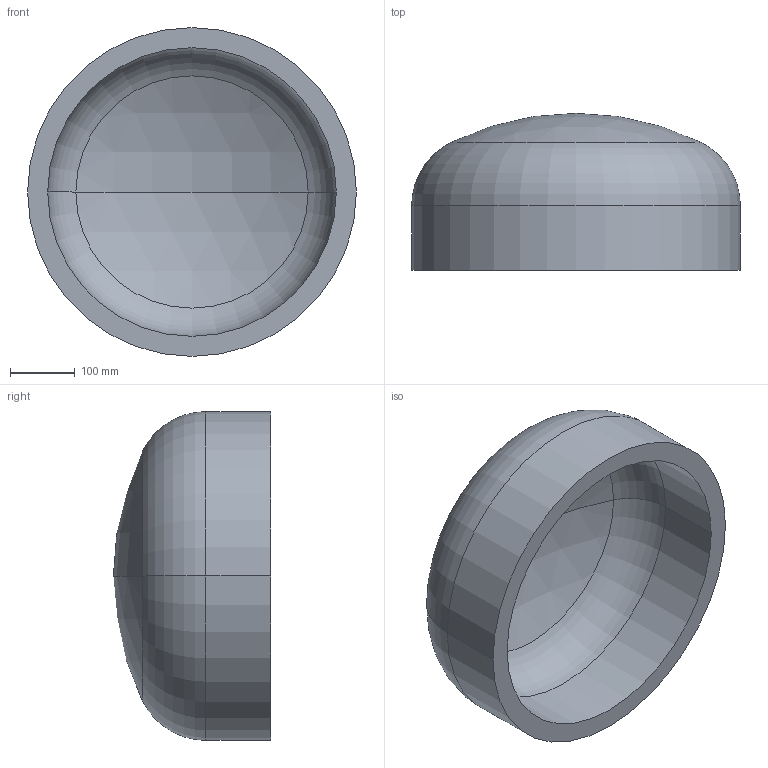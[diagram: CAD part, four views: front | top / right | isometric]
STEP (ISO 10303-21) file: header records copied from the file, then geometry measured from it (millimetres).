
FILE_DESCRIPTION (( 'STEP AP203' ), '1' );
FILE_NAME ('DIN 28013 Korbbogenform_-_Boden DIN 28013 - 508 x 100 - I - s=31.step', '2016-07-01T07:53:56', ( '' ), ( '' ), 'SwSTEP 2.0', 'SolidWorks 2013', '' );
FILE_SCHEMA (( 'CONFIG_CONTROL_DESIGN' ));
Length unit declared in the file: millimetre
Products named in the file (1): DIN 28013 Korbbogenform_-_Boden DIN 28013 - 508 x 100 - I - s=31
Bounding box: 508 x 242.79 x 508 mm (x, y, z)
Volume: 12692289.9 mm3; surface area: 867324.7 mm2
Topology: 1 solids, 1 shells, 13 faces, 24 edges, 14 vertices
Faces by surface type: torus 4, cylinder 4, sphere 4, plane 1
Entity records: 407 total; most frequent: DIRECTION 72, CARTESIAN_POINT 52, ORIENTED_EDGE 48, AXIS2_PLACEMENT_3D 34, EDGE_CURVE 24, CIRCLE 20, EDGE_LOOP 14, VERTEX_POINT 14
